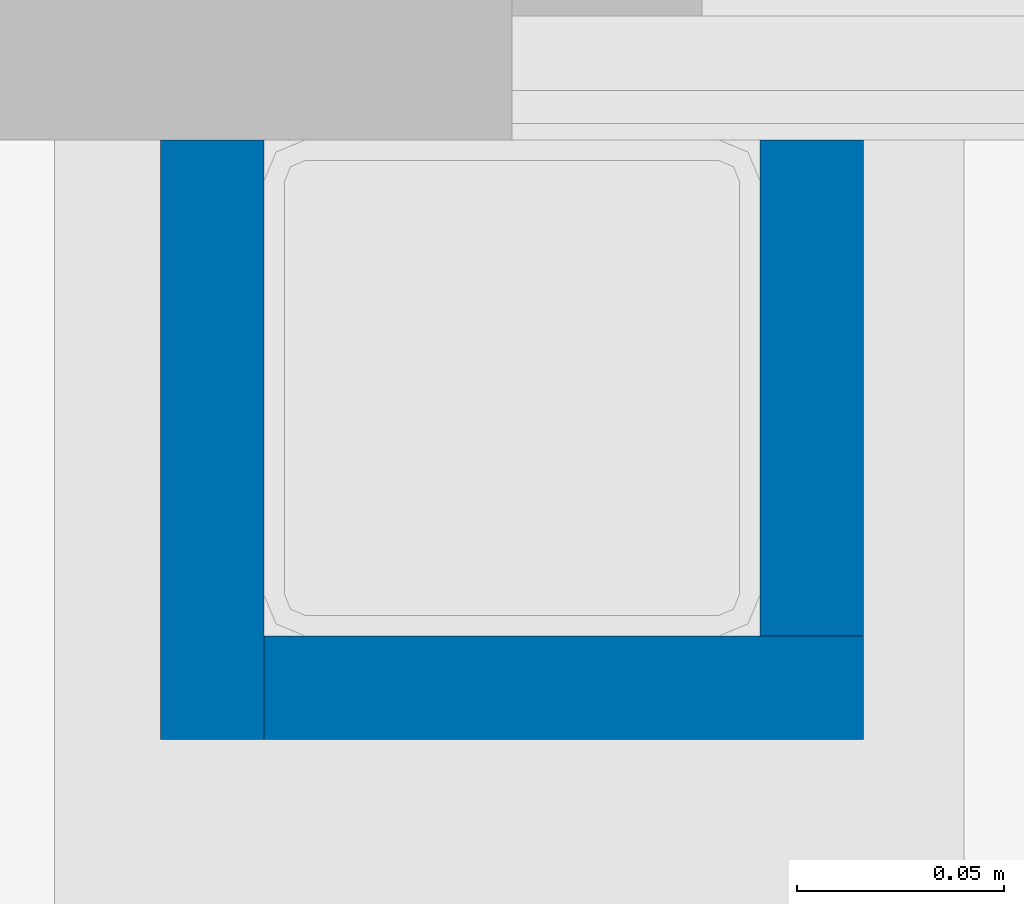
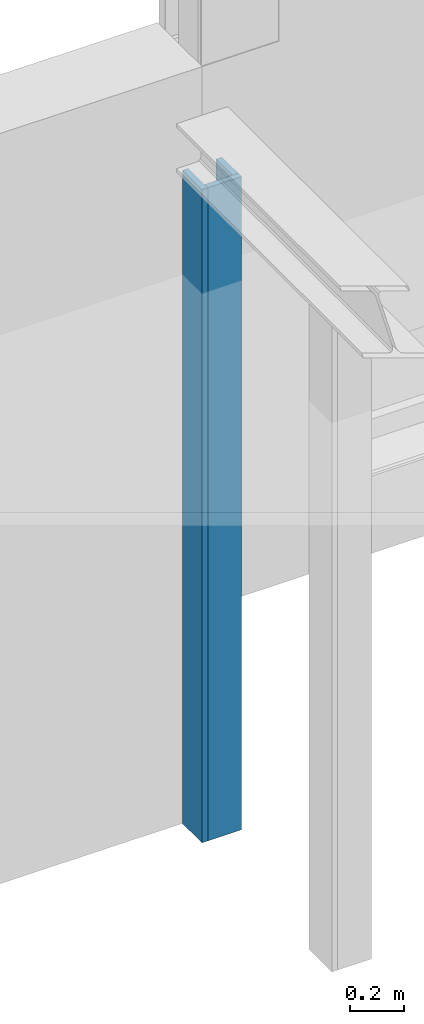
# One storey, part 55 of 99: 3 walls.
"""IFC2X3 building model written with IfcOpenShell, lengths in millimetres."""

from ifc_helpers import new_model, entity, si_unit, converted_unit, derived_unit, money_unit, direction, frame, origin_with_axes, place, context, subcontext, project, spatial, faceted_brep, material, type_object, element, save


model = new_model("IFC2X3")

# Units and contexts
model_context = context("Model", 3, precision=0.01, world=origin_with_axes(), true_north=direction((0.0, 1.0)))
body_context = subcontext(model_context, "Body", "Model", "MODEL_VIEW")
ifc_project = project(units=[si_unit("LENGTHUNIT", "METRE", prefix="MILLI"), si_unit("AREAUNIT", "SQUARE_METRE"), si_unit("VOLUMEUNIT", "CUBIC_METRE"), converted_unit("PLANEANGLEUNIT", "DEGREE", entity("IfcPlaneAngleMeasure", 0.0174532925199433), si_unit("PLANEANGLEUNIT", "RADIAN"), dimensions=[0, 0, 0, 0, 0, 0, 0]), money_unit("EUR"), converted_unit("TIMEUNIT", "Year", entity("IfcTimeMeasure", 31557600.0), si_unit("TIMEUNIT", "SECOND"), dimensions=[0, 0, 1, 0, 0, 0, 0]), si_unit("MASSUNIT", "GRAM", prefix="KILO"), si_unit("THERMODYNAMICTEMPERATUREUNIT", "DEGREE_CELSIUS"), si_unit("LUMINOUSINTENSITYUNIT", "LUMEN"), si_unit("ENERGYUNIT", "JOULE", prefix="MEGA"), derived_unit("THERMALCONDUCTANCEUNIT", [(si_unit("POWERUNIT", "WATT"), 1), (si_unit("LENGTHUNIT", "METRE"), -1), (si_unit("THERMODYNAMICTEMPERATUREUNIT", "KELVIN"), -1)]), derived_unit("SPECIFICHEATCAPACITYUNIT", [(si_unit("ENERGYUNIT", "JOULE"), 1), (si_unit("MASSUNIT", "GRAM", prefix="KILO"), -1), (si_unit("THERMODYNAMICTEMPERATUREUNIT", "KELVIN"), -1)]), derived_unit("MASSDENSITYUNIT", [(si_unit("MASSUNIT", "GRAM", prefix="KILO"), 1), (si_unit("VOLUMEUNIT", "CUBIC_METRE"), -1)])], contexts=[model_context])

# Site, building, storey
site_placement = place(None, origin_with_axes())
site = spatial("IfcSite", under=ifc_project, at=site_placement, Name="Site", CompositionType="ELEMENT")
building_placement = place(site_placement, origin_with_axes())
building = spatial("IfcBuilding", under=site, at=building_placement, Name="Naam gebouw", CompositionType="ELEMENT")
storey_placement = place(building_placement, frame((0.0, 0.0, 7650.0), z_axis=(0.0, 0.0, 1.0), x_axis=(1.0, 0.0, 0.0)))
storey = spatial("IfcBuildingStorey", under=building, at=storey_placement, Name="2e verdieping N", CompositionType="ELEMENT", Elevation=7650.0)

# Walls
ifc_material = material(Name="Gipsplaat")
wall_type = type_object("IfcWallType", Name="Gipsplaat 25", PredefinedType="NOTDEFINED")
wall_1_placement = place(storey_placement, frame((50314.99999999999, 27360.91242510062, 0.0), z_axis=(0.0, 0.0, 1.0), x_axis=(0.0, 1.0, 0.0)))
element("IfcWall", 1, at=wall_1_placement, inside=storey, type_object=wall_type, material=ifc_material, Name="_Wand-x", context=body_context, shape_type="Brep", body=[
    faceted_brep([(144.9999999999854, -24.99999999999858, 2959.999999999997), (144.9999999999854, 0.0, 2959.999999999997), (0.0, 0.0, 2959.999999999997), (0.0, -24.99999999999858, 2959.999999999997), (144.9999999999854, -24.99999999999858, 0.0), (144.9999999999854, 0.0, 0.0), (0.0, 0.0, 0.0), (0.0, -24.99999999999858, 0.0)], [[[0, 1, 2, 3]], [[1, 0, 4, 5]], [[1, 5, 6, 2]], [[7, 3, 2, 6]], [[4, 0, 3, 7]], [[5, 4, 7, 6]]]),
])
wall_2_placement = place(storey_placement, frame((50484.99999999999, 27360.91242510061, 0.0), z_axis=(0.0, 0.0, 1.0), x_axis=(0.0, 1.0, 0.0)))
element("IfcWall", 2, at=wall_2_placement, inside=storey, type_object=wall_type, material=ifc_material, Name="_Wand-x", context=body_context, shape_type="Brep", body=[
    faceted_brep([(144.9999999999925, 0.0, 0.0), (144.9999999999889, 0.0, 939.9999999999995), (144.9999999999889, 0.0, 2959.999999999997), (24.99999999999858, 0.0, 2959.999999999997), (24.99999999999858, 0.0, 0.0), (144.9999999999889, 25.00000000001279, 0.0), (144.9999999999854, 25.00000000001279, 939.9999999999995), (144.9999999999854, 25.00000000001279, 2959.999999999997), (24.99999999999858, 25.00000000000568, 2959.999999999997), (24.99999999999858, 25.00000000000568, 0.0)], [[[0, 1, 2, 3, 4]], [[5, 6, 7, 2, 1, 0]], [[3, 2, 7, 8]], [[9, 4, 3, 8]], [[4, 9, 5, 0]], [[8, 7, 6, 5, 9]]]),
])
wall_3_placement = place(storey_placement, frame((50314.99999999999, 27360.91242510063, 0.0), z_axis=(0.0, 0.0, 1.0), x_axis=(1.0, 0.0, 0.0)))
element("IfcWall", 3, at=wall_3_placement, inside=storey, type_object=wall_type, material=ifc_material, Name="_Wand-x", context=body_context, shape_type="Brep", body=[
    faceted_brep([(169.9999999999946, 25.00000000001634, 0.0), (169.9999999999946, 0.0, 0.0), (24.99999999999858, 0.0, 0.0), (24.99999999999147, 25.00000000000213, 0.0), (169.9999999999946, 25.00000000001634, 2959.999999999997), (169.9999999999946, 0.0, 2959.999999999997), (24.99999999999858, 0.0, 2959.999999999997), (24.99999999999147, 25.00000000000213, 2959.999999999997)], [[[0, 1, 2, 3]], [[1, 0, 4, 5]], [[1, 5, 6, 2]], [[7, 3, 2, 6]], [[4, 0, 3, 7]], [[5, 4, 7, 6]]]),
])

save(model, "model.ifc")
